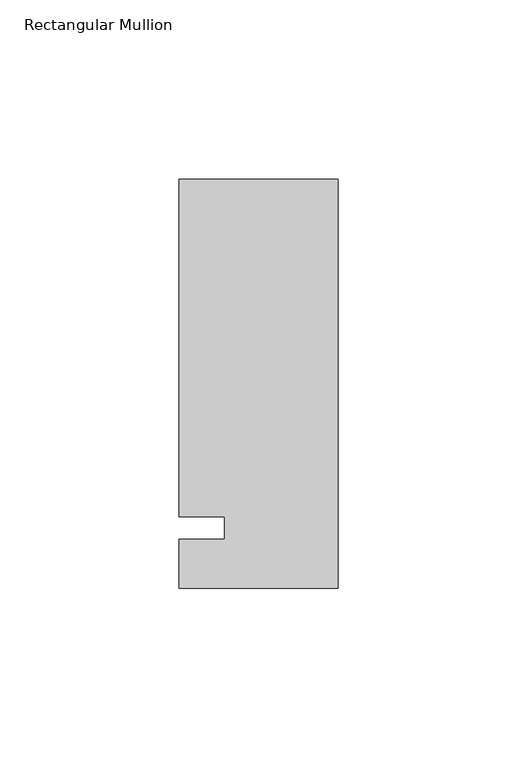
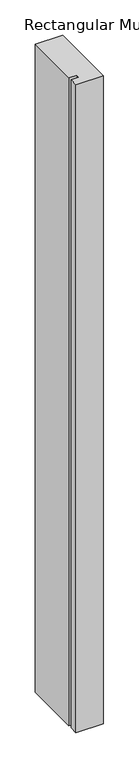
"""IFC4 building model written with IfcOpenShell, lengths in millimetres: member geometry, Rectangular Mullion : Kawneer-TRIFAB_VG_450_BACK_SB_Jamb R."""

from ifc_helpers import new_model, si_unit, frame, origin, place, context, project, spatial, polyline, outline, extrude, source, transform, mapped, element, save


def rectangular_mullion_4c7a72c7(model_context):
    return source(origin(), model_context, "Body", "SweptSolid", [
        extrude(outline(polyline([(-44.45, -16.8081154), (-44.45, -3.175), (-31.7482296, -3.175), (-31.7482296, 3.175), (-44.45, 3.175), (-44.45, 97.4918846), (0.0, 97.4918846), (0.0, -16.8081154), (-44.45, -16.8081154)])), frame((0.0, 0.0, -1116.4405973), z_axis=(0.0, 0.0, 1.0), x_axis=(1.0, 0.0, 0.0)), (0.0, 0.0, 1.0), 1116.4405973),
    ])


if __name__ == "__main__":
    model = new_model("IFC4")
    model_context = context("Model", 3, world=origin())
    ifc_project = project(units=[si_unit("LENGTHUNIT", "METRE", prefix="MILLI")], contexts=[model_context])
    site = spatial("IfcSite", under=ifc_project)
    building = spatial("IfcBuilding", under=site)
    placement = place(None, origin())
    rectangular_mullion_shape = rectangular_mullion_4c7a72c7(model_context)
    element("IfcMember", 1, ObjectType="Rectangular Mullion : Kawneer-TRIFAB_VG_450_BACK_SB_Jamb R", at=placement, inside=building, context=model_context, shape_type="MappedRepresentation", body=[
        mapped(rectangular_mullion_shape, transform((0.0, 0.0, 0.0), x_axis=(1.0, 0.0, 0.0), y_axis=(0.0, 1.0, 0.0), z_axis=(0.0, 0.0, 1.0))),
    ])
    save(model, "model.ifc")
